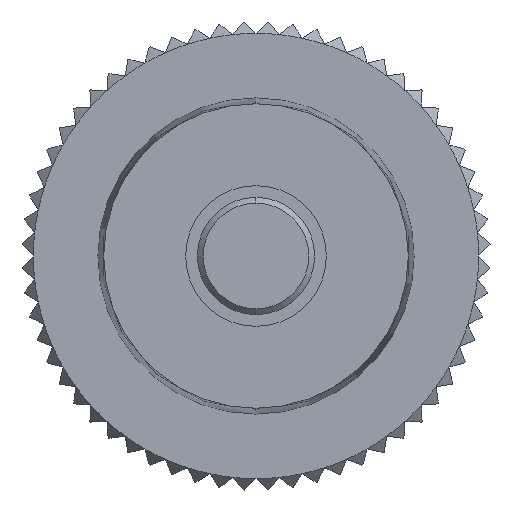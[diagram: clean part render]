
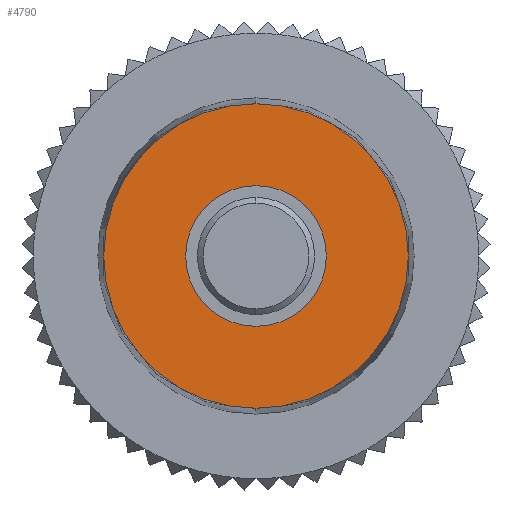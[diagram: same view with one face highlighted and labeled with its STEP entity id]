
A CAD part, front view. The second image highlights one B-rep face of the part: STEP entity #4790.
In plain terms, the highlighted planar face has unit normal (0, -1, 0).
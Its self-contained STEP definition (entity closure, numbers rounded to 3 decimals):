
#1419 = DIRECTION ( 'NONE',  ( 0., 0., -1. ) ) ;
#1420 = DIRECTION ( 'NONE',  ( 0., -1., 0. ) ) ;
#1421 = CARTESIAN_POINT ( 'NONE',  ( 0., 0., 0. ) ) ;
#1422 = AXIS2_PLACEMENT_3D ( 'NONE', #1421, #1420, #1419 ) ;
#1423 = CIRCLE ( 'NONE', #1422, 6.5 ) ;
#1424 = DIRECTION ( 'NONE',  ( 0., 0., -1. ) ) ;
#1425 = DIRECTION ( 'NONE',  ( 0., -1., 0. ) ) ;
#1426 = CARTESIAN_POINT ( 'NONE',  ( 0., 0., 0. ) ) ;
#1427 = AXIS2_PLACEMENT_3D ( 'NONE', #1426, #1425, #1424 ) ;
#1428 = CIRCLE ( 'NONE', #1427, 3. ) ;
#1429 = DIRECTION ( 'NONE',  ( 0., 0., -1. ) ) ;
#1430 = DIRECTION ( 'NONE',  ( 0., -1., 0. ) ) ;
#1431 = CARTESIAN_POINT ( 'NONE',  ( 0., 0., 0. ) ) ;
#1432 = AXIS2_PLACEMENT_3D ( 'NONE', #1431, #1430, #1429 ) ;
#1433 = PLANE ( 'NONE',  #1432 ) ;
#1434 = FACE_OUTER_BOUND ( 'NONE', #4794, .T. ) ;
#1435 = FACE_BOUND ( 'NONE', #4735, .T. ) ;
#4186 = VERTEX_POINT ( 'NONE', #7732 ) ;
#4193 = VERTEX_POINT ( 'NONE', #7773 ) ;
#4195 = VERTEX_POINT ( 'NONE', #7772 ) ;
#4196 = EDGE_CURVE ( 'NONE', #4195, #4193, #7771, .T. ) ;
#4204 = VERTEX_POINT ( 'NONE', #7804 ) ;
#4221 = EDGE_CURVE ( 'NONE', #4186, #4204, #7828, .T. ) ;
#4735 = EDGE_LOOP ( 'NONE', ( #4791, #4793 ) ) ;
#4790 = ADVANCED_FACE ( 'NONE', ( #1435, #1434 ), #1433, .T. ) ;
#4791 = ORIENTED_EDGE ( 'NONE', *, *, #4792, .F. ) ;
#4792 = EDGE_CURVE ( 'NONE', #4204, #4186, #1428, .T. ) ;
#4793 = ORIENTED_EDGE ( 'NONE', *, *, #4221, .F. ) ;
#4794 = EDGE_LOOP ( 'NONE', ( #4795, #4797 ) ) ;
#4795 = ORIENTED_EDGE ( 'NONE', *, *, #4796, .T. ) ;
#4796 = EDGE_CURVE ( 'NONE', #4193, #4195, #1423, .T. ) ;
#4797 = ORIENTED_EDGE ( 'NONE', *, *, #4196, .T. ) ;
#7732 = CARTESIAN_POINT ( 'NONE',  ( 0., 0., 3. ) ) ;
#7767 = DIRECTION ( 'NONE',  ( 0., 0., -1. ) ) ;
#7768 = DIRECTION ( 'NONE',  ( 0., -1., 0. ) ) ;
#7769 = CARTESIAN_POINT ( 'NONE',  ( 0., 0., 0. ) ) ;
#7770 = AXIS2_PLACEMENT_3D ( 'NONE', #7769, #7768, #7767 ) ;
#7771 = CIRCLE ( 'NONE', #7770, 6.5 ) ;
#7772 = CARTESIAN_POINT ( 'NONE',  ( 0., 0., -6.5 ) ) ;
#7773 = CARTESIAN_POINT ( 'NONE',  ( 0., 0., 6.5 ) ) ;
#7804 = CARTESIAN_POINT ( 'NONE',  ( 0., 0., -3. ) ) ;
#7825 = DIRECTION ( 'NONE',  ( 0., 0., -1. ) ) ;
#7826 = DIRECTION ( 'NONE',  ( 0., -1., 0. ) ) ;
#7827 = AXIS2_PLACEMENT_3D ( 'NONE', #7833, #7826, #7825 ) ;
#7828 = CIRCLE ( 'NONE', #7827, 3. ) ;
#7833 = CARTESIAN_POINT ( 'NONE',  ( 0., 0., 0. ) ) ;
